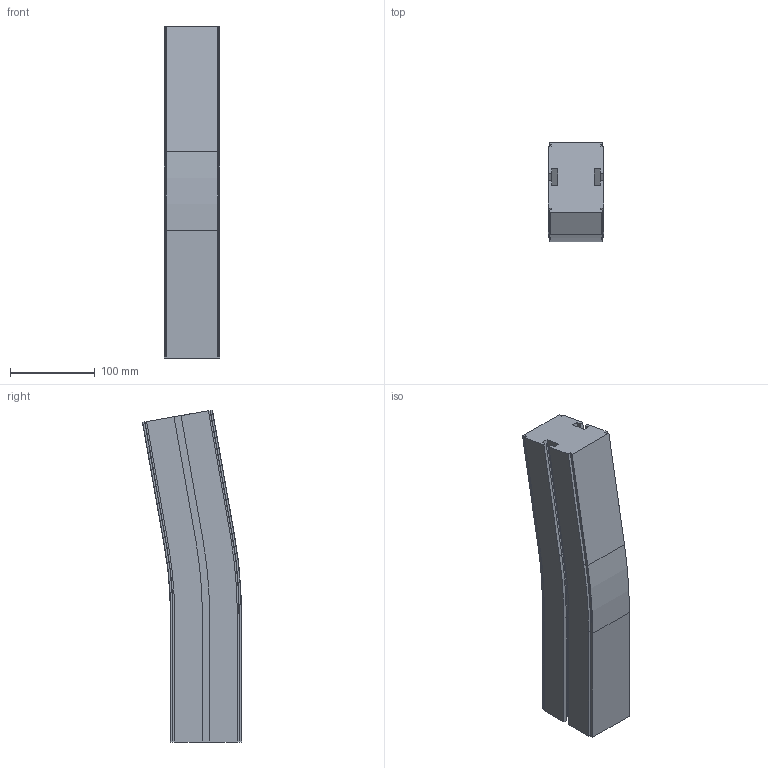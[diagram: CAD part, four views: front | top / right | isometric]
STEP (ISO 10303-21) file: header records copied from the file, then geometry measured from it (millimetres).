
FILE_DESCRIPTION (( 'STEP AP214' ), '1' );
FILE_NAME ('CS SL Verticaalbocht.65 10°.STEP', '2017-02-08T07:37:17', ( '' ), ( '' ), 'SwSTEP 2.0', 'SolidWorks 2016', '' );
FILE_SCHEMA (( 'AUTOMOTIVE_DESIGN' ));
Length unit declared in the file: millimetre
Products named in the file (1): CS SL Verticaalbocht.65 10°
Bounding box: 65 x 117.01 x 391.84 mm (x, y, z)
Volume: 1957488.7 mm3; surface area: 166549.3 mm2
Topology: 1 solids, 1 shells, 98 faces, 272 edges, 176 vertices
Faces by surface type: plane 72, cylinder 18, cone 8
Entity records: 3126 total; most frequent: CARTESIAN_POINT 547, ORIENTED_EDGE 544, DIRECTION 514, EDGE_CURVE 272, VECTOR 228, LINE 228, VERTEX_POINT 176, AXIS2_PLACEMENT_3D 143
